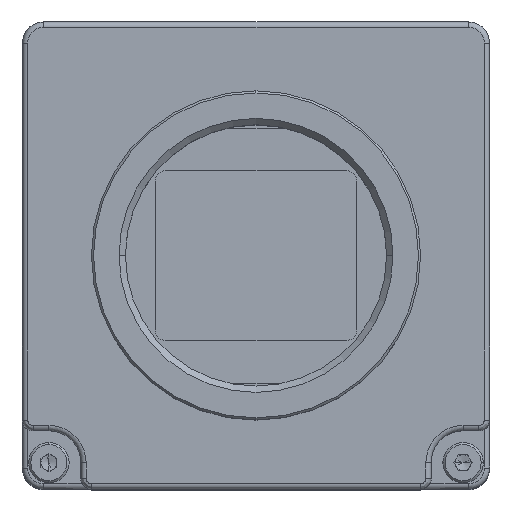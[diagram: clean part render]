
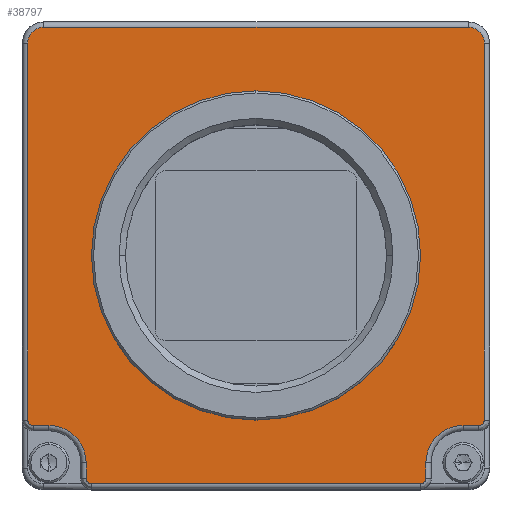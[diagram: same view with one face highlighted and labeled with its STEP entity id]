
A CAD part, top view. The second image highlights one B-rep face of the part: STEP entity #38797.
In plain terms, the highlighted planar face has unit normal (0, 0, 1).
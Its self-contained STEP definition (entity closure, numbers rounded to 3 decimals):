
#6718=DIRECTION('',(0.,-1.,0.));
#6719=VECTOR('',#6718,35.5);
#6720=CARTESIAN_POINT('',(-77.112,-581.,82.001));
#6721=LINE('',#6720,#6719);
#6726=CARTESIAN_POINT('',(-75.112,-620.5,82.001));
#6727=DIRECTION('',(0.,0.,-1.));
#6728=DIRECTION('',(0.,1.,0.));
#6729=AXIS2_PLACEMENT_3D('',#6726,#6727,#6728);
#6731=CARTESIAN_POINT('',(-76.612,-616.5,82.001));
#6732=DIRECTION('',(0.,0.,1.));
#6733=DIRECTION('',(-1.,0.,0.));
#6734=AXIS2_PLACEMENT_3D('',#6731,#6732,#6733);
#6736=CARTESIAN_POINT('',(-75.612,-581.,82.001));
#6737=DIRECTION('',(0.,0.,1.));
#6738=DIRECTION('',(0.,1.,0.));
#6739=AXIS2_PLACEMENT_3D('',#6736,#6737,#6738);
#6741=CARTESIAN_POINT('',(-35.612,-581.,82.001));
#6742=DIRECTION('',(0.,0.,1.));
#6743=DIRECTION('',(1.,0.,0.));
#6744=AXIS2_PLACEMENT_3D('',#6741,#6742,#6743);
#6746=CARTESIAN_POINT('',(-34.612,-616.5,82.001));
#6747=DIRECTION('',(0.,0.,1.));
#6748=DIRECTION('',(0.,-1.,0.));
#6749=AXIS2_PLACEMENT_3D('',#6746,#6747,#6748);
#6751=CARTESIAN_POINT('',(-36.112,-620.5,82.001));
#6752=DIRECTION('',(0.,0.,-1.));
#6753=DIRECTION('',(-1.,0.,0.));
#6754=AXIS2_PLACEMENT_3D('',#6751,#6752,#6753);
#6756=CARTESIAN_POINT('',(-40.112,-622.,82.001));
#6757=DIRECTION('',(0.,0.,1.));
#6758=DIRECTION('',(0.,-1.,0.));
#6759=AXIS2_PLACEMENT_3D('',#6756,#6757,#6758);
#6761=CARTESIAN_POINT('',(-71.112,-622.,82.001));
#6762=DIRECTION('',(0.,0.,1.));
#6763=DIRECTION('',(-1.,0.,0.));
#6764=AXIS2_PLACEMENT_3D('',#6761,#6762,#6763);
#6766=CARTESIAN_POINT('',(-55.612,-601.,82.001));
#6767=DIRECTION('',(0.,0.,-1.));
#6768=DIRECTION('',(0.,1.,0.));
#6769=AXIS2_PLACEMENT_3D('',#6766,#6767,#6768);
#6771=CARTESIAN_POINT('',(-55.612,-601.,82.001));
#6772=DIRECTION('',(0.,0.,-1.));
#6773=DIRECTION('',(0.,-1.,0.));
#6774=AXIS2_PLACEMENT_3D('',#6771,#6772,#6773);
#6791=DIRECTION('',(0.,-1.,0.));
#6792=VECTOR('',#6791,1.5);
#6793=CARTESIAN_POINT('',(-71.612,-620.5,82.001));
#6794=LINE('',#6793,#6792);
#6879=DIRECTION('',(1.,0.,0.));
#6880=VECTOR('',#6879,1.5);
#6881=CARTESIAN_POINT('',(-76.612,-617.,82.001));
#6882=LINE('',#6881,#6880);
#6887=DIRECTION('',(1.,0.,0.));
#6888=VECTOR('',#6887,31.);
#6889=CARTESIAN_POINT('',(-71.112,-622.5,82.001));
#6890=LINE('',#6889,#6888);
#6922=DIRECTION('',(0.,1.,0.));
#6923=VECTOR('',#6922,1.5);
#6924=CARTESIAN_POINT('',(-39.612,-622.,82.001));
#6925=LINE('',#6924,#6923);
#6945=DIRECTION('',(1.,0.,0.));
#6946=VECTOR('',#6945,1.5);
#6947=CARTESIAN_POINT('',(-36.112,-617.,82.001));
#6948=LINE('',#6947,#6946);
#6989=DIRECTION('',(0.,1.,0.));
#6990=VECTOR('',#6989,35.5);
#6991=CARTESIAN_POINT('',(-34.112,-616.5,82.001));
#6992=LINE('',#6991,#6990);
#7012=DIRECTION('',(-1.,0.,0.));
#7013=VECTOR('',#7012,40.);
#7014=CARTESIAN_POINT('',(-35.612,-579.5,82.001));
#7015=LINE('',#7014,#7013);
#23445=CARTESIAN_POINT('',(-55.612,-585.5,82.001));
#23446=CARTESIAN_POINT('',(-55.612,-616.5,82.001));
#23447=VERTEX_POINT('',#23445);
#23448=VERTEX_POINT('',#23446);
#23449=CARTESIAN_POINT('',(-75.112,-617.,82.001));
#23450=CARTESIAN_POINT('',(-71.612,-620.5,82.001));
#23451=VERTEX_POINT('',#23449);
#23452=VERTEX_POINT('',#23450);
#23453=CARTESIAN_POINT('',(-76.612,-617.,82.001));
#23454=VERTEX_POINT('',#23453);
#23455=CARTESIAN_POINT('',(-77.112,-616.5,82.001));
#23456=VERTEX_POINT('',#23455);
#23457=CARTESIAN_POINT('',(-77.112,-581.,82.001));
#23458=VERTEX_POINT('',#23457);
#23459=CARTESIAN_POINT('',(-75.612,-579.5,82.001));
#23460=VERTEX_POINT('',#23459);
#23461=CARTESIAN_POINT('',(-35.612,-579.5,82.001));
#23462=VERTEX_POINT('',#23461);
#23463=CARTESIAN_POINT('',(-34.112,-581.,82.001));
#23464=VERTEX_POINT('',#23463);
#23465=CARTESIAN_POINT('',(-34.112,-616.5,82.001));
#23466=VERTEX_POINT('',#23465);
#23467=CARTESIAN_POINT('',(-34.612,-617.,82.001));
#23468=VERTEX_POINT('',#23467);
#23469=CARTESIAN_POINT('',(-36.112,-617.,82.001));
#23470=VERTEX_POINT('',#23469);
#23471=CARTESIAN_POINT('',(-39.612,-620.5,82.001));
#23472=VERTEX_POINT('',#23471);
#23473=CARTESIAN_POINT('',(-39.612,-622.,82.001));
#23474=VERTEX_POINT('',#23473);
#23475=CARTESIAN_POINT('',(-40.112,-622.5,82.001));
#23476=VERTEX_POINT('',#23475);
#23477=CARTESIAN_POINT('',(-71.112,-622.5,82.001));
#23478=VERTEX_POINT('',#23477);
#23479=CARTESIAN_POINT('',(-71.612,-622.,82.001));
#23480=VERTEX_POINT('',#23479);
#38753=CARTESIAN_POINT('',(-55.612,-601.,82.001));
#38754=DIRECTION('',(0.,0.,1.));
#38755=DIRECTION('',(-1.,0.,0.));
#38756=AXIS2_PLACEMENT_3D('',#38753,#38754,#38755);
#38757=PLANE('',#38756);
#38759=ORIENTED_EDGE('',*,*,#38758,.F.);
#38761=ORIENTED_EDGE('',*,*,#38760,.F.);
#38763=ORIENTED_EDGE('',*,*,#38762,.F.);
#38764=ORIENTED_EDGE('',*,*,#38743,.F.);
#38766=ORIENTED_EDGE('',*,*,#38765,.F.);
#38768=ORIENTED_EDGE('',*,*,#38767,.F.);
#38770=ORIENTED_EDGE('',*,*,#38769,.F.);
#38772=ORIENTED_EDGE('',*,*,#38771,.F.);
#38774=ORIENTED_EDGE('',*,*,#38773,.F.);
#38776=ORIENTED_EDGE('',*,*,#38775,.F.);
#38778=ORIENTED_EDGE('',*,*,#38777,.F.);
#38780=ORIENTED_EDGE('',*,*,#38779,.F.);
#38782=ORIENTED_EDGE('',*,*,#38781,.F.);
#38784=ORIENTED_EDGE('',*,*,#38783,.F.);
#38786=ORIENTED_EDGE('',*,*,#38785,.F.);
#38788=ORIENTED_EDGE('',*,*,#38787,.F.);
#38789=EDGE_LOOP('',(#38759,#38761,#38763,#38764,#38766,#38768,#38770,#38772,
#38774,#38776,#38778,#38780,#38782,#38784,#38786,#38788));
#38790=FACE_OUTER_BOUND('',#38789,.F.);
#38792=ORIENTED_EDGE('',*,*,#38791,.F.);
#38794=ORIENTED_EDGE('',*,*,#38793,.F.);
#38795=EDGE_LOOP('',(#38792,#38794));
#38796=FACE_BOUND('',#38795,.F.);
#38797=ADVANCED_FACE('',(#38790,#38796),#38757,.T.);
#6730=CIRCLE('',#6729,3.5);
#6735=CIRCLE('',#6734,0.5);
#6740=CIRCLE('',#6739,1.5);
#6745=CIRCLE('',#6744,1.5);
#6750=CIRCLE('',#6749,0.5);
#6755=CIRCLE('',#6754,3.5);
#6760=CIRCLE('',#6759,0.5);
#6765=CIRCLE('',#6764,0.5);
#6770=CIRCLE('',#6769,15.5);
#6775=CIRCLE('',#6774,15.5);
#38743=EDGE_CURVE('',#23458,#23456,#6721,.T.);
#38758=EDGE_CURVE('',#23451,#23452,#6730,.T.);
#38760=EDGE_CURVE('',#23454,#23451,#6882,.T.);
#38762=EDGE_CURVE('',#23456,#23454,#6735,.T.);
#38765=EDGE_CURVE('',#23460,#23458,#6740,.T.);
#38767=EDGE_CURVE('',#23462,#23460,#7015,.T.);
#38769=EDGE_CURVE('',#23464,#23462,#6745,.T.);
#38771=EDGE_CURVE('',#23466,#23464,#6992,.T.);
#38773=EDGE_CURVE('',#23468,#23466,#6750,.T.);
#38775=EDGE_CURVE('',#23470,#23468,#6948,.T.);
#38777=EDGE_CURVE('',#23472,#23470,#6755,.T.);
#38779=EDGE_CURVE('',#23474,#23472,#6925,.T.);
#38781=EDGE_CURVE('',#23476,#23474,#6760,.T.);
#38783=EDGE_CURVE('',#23478,#23476,#6890,.T.);
#38785=EDGE_CURVE('',#23480,#23478,#6765,.T.);
#38787=EDGE_CURVE('',#23452,#23480,#6794,.T.);
#38791=EDGE_CURVE('',#23447,#23448,#6770,.T.);
#38793=EDGE_CURVE('',#23448,#23447,#6775,.T.);
